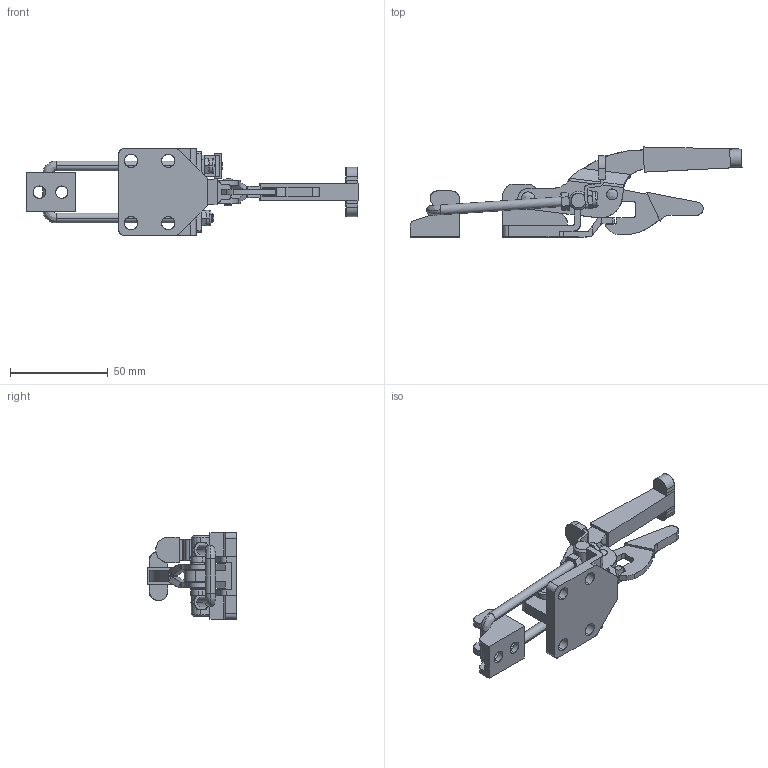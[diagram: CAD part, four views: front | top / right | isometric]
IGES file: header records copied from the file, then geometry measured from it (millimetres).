
Start section: SolidWorks IGES file using analytic representation for surfaces
Global section: file name: C:\Users\cbrechard\Desktop\SGH-250320-EHU .IGS; native system: SolidWorks 2017; preprocessor: SolidWorks 2017; author: cbrechard; date: 241106.094917; units: millimetre
Bounding box: 169.56 x 45.96 x 44.4 mm (x, y, z)
Surface area: 26233.5 mm2 (no closed solid volume)
Topology: 0 solids, 0 shells, 423 faces, 5128 edges, 5128 vertices
Faces by surface type: revolution 233, bspline 190
